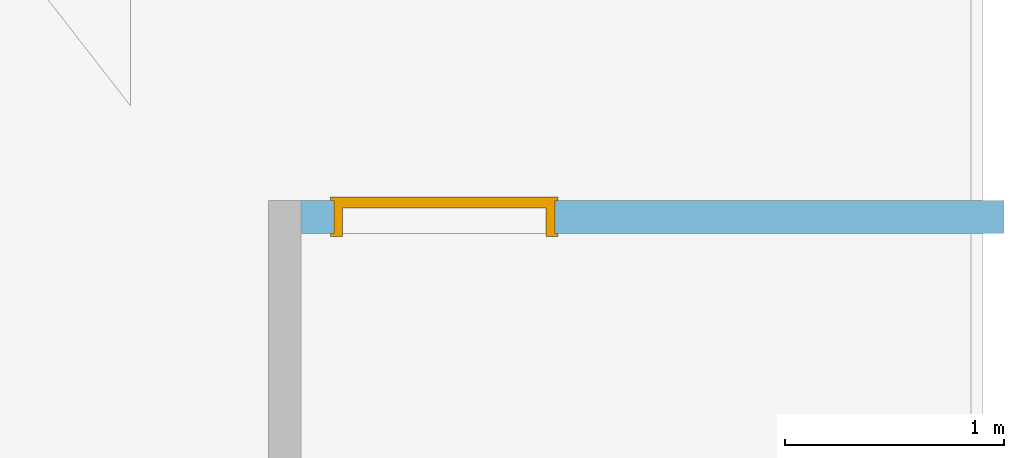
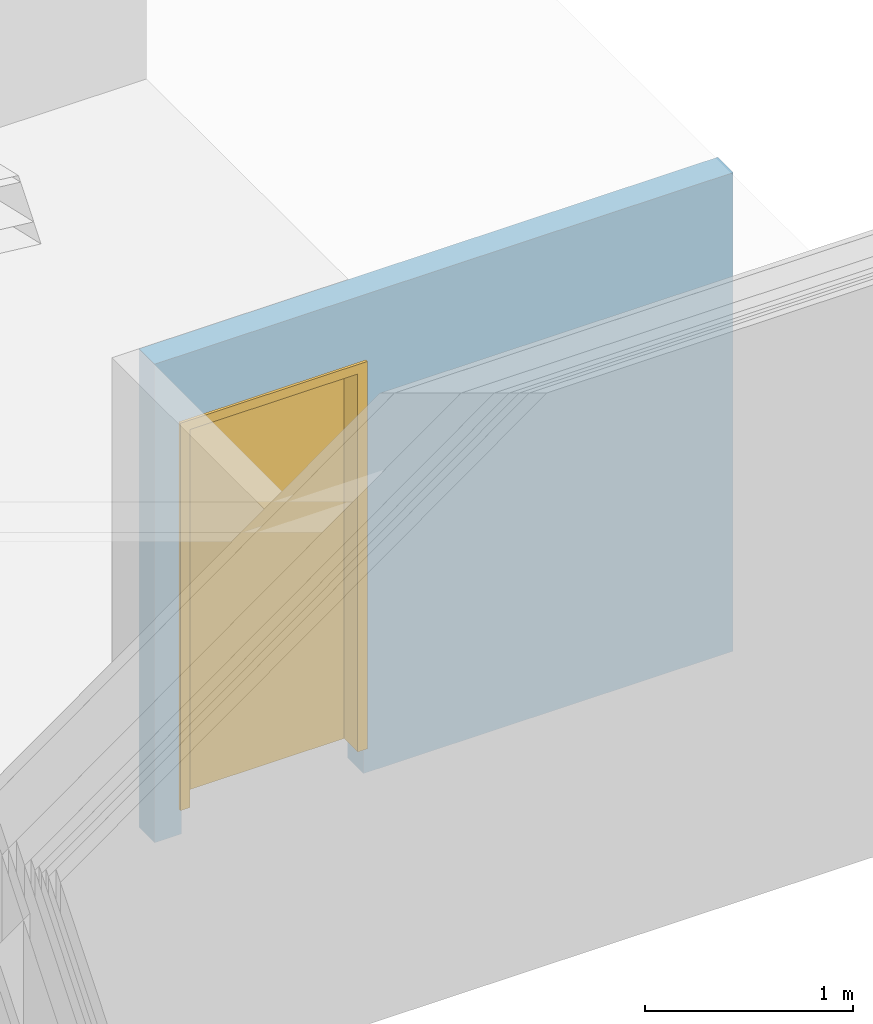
# One storey, part 10 of 14: 1 door, 1 opening, plus 1 element that does not belong to this part.
"""IFC4 building model written with IfcOpenShell, lengths in metres."""

import ifcopenshell
import ifcopenshell.guid

model = None  # the IFC model being written
_history = None  # IfcOwnerHistory: only IFC2X3 demands one
_inside = {}  # id of a spatial element -> (the spatial element, [elements in it])
_under = {}  # id of a project, library or spatial element -> (it, [spatial elements below it])
_declared = {}  # id of a project -> (the project, [libraries it declares])
_typed = {}  # id of a type object -> (the type object, [elements of that type])
_made_of = {}  # id of a material, layer set ... -> (it, [elements and type objects made of it])


def new_model(schema):
    """Start an empty IFC model of exactly this schema.

    Asked for "IFC4X3", IfcOpenShell would pick the latest addendum, in which some entities
    have other attributes; the version numbers below select the first issue.
    IFC2X3 requires an IfcOwnerHistory on every rooted entity: one is made here for all.
    """
    global model, _history
    if schema == "IFC4X3":
        model = ifcopenshell.file(schema_version=(4, 3, 0, 0))
    else:
        model = ifcopenshell.file(schema=schema)
    _inside.clear()
    _under.clear()
    _declared.clear()
    _typed.clear()
    _made_of.clear()
    _history = None
    if model.schema == "IFC2X3":
        org = make("IfcOrganization", Name="unknown")
        user = make(
            "IfcPersonAndOrganization",
            ThePerson=make("IfcPerson", FamilyName="unknown"),
            TheOrganization=org,
        )
        app = make(
            "IfcApplication",
            ApplicationDeveloper=org,
            Version="unknown",
            ApplicationFullName="unknown",
            ApplicationIdentifier="unknown",
        )
        _history = make(
            "IfcOwnerHistory",
            OwningUser=user,
            OwningApplication=app,
            ChangeAction="ADDED",
            CreationDate=0,
        )
    return model


def make(cls, **values):
    """One entity of the class cls with the attributes given. An attribute that is None is left unset."""
    return model.create_entity(
        cls, **{name: value for name, value in values.items() if value is not None}
    )


def entity(cls, *values):
    """Any entity or typed value of the class cls, its attributes in the order of the schema. None: left unset."""
    e = model.create_entity(cls)
    for i, value in enumerate(values):
        if value is not None:
            e[i] = value
    return e


def rooted(cls, **values):
    """An entity with a GlobalId (a new one), such as an element, a storey or a relation."""
    return make(cls, GlobalId=ifcopenshell.guid.new(), OwnerHistory=_history, **values)


def si_unit(unit_type, name, prefix=None):
    """IfcSIUnit, for example si_unit("LENGTHUNIT", "METRE", prefix="MILLI")."""
    return make("IfcSIUnit", UnitType=unit_type, Prefix=prefix, Name=name)


def converted_unit(unit_type, name, factor, base, dimensions=None, offset=None):
    """IfcConversionBasedUnit, such as the inch: factor (a typed value) times the base unit."""
    return make(
        "IfcConversionBasedUnit"
        if offset is None
        else "IfcConversionBasedUnitWithOffset",
        ConversionOffset=offset,
        Dimensions=None
        if dimensions is None
        else entity("IfcDimensionalExponents", *dimensions),
        UnitType=unit_type,
        Name=name,
        ConversionFactor=make(
            "IfcMeasureWithUnit", ValueComponent=factor, UnitComponent=base
        ),
    )


def derived_unit(unit_type, elements):
    """IfcDerivedUnit: a product of units, each with its exponent."""
    return make(
        "IfcDerivedUnit",
        Elements=[
            make("IfcDerivedUnitElement", Unit=unit, Exponent=power)
            for unit, power in elements
        ],
        UnitType=unit_type,
    )


def assignment(units):
    """IfcUnitAssignment: the units of a project."""
    return None if units is None else make("IfcUnitAssignment", Units=units)


def point(xyz):
    """IfcCartesianPoint."""
    return None if xyz is None else make("IfcCartesianPoint", Coordinates=xyz)


def direction(xyz):
    """IfcDirection."""
    return None if xyz is None else make("IfcDirection", DirectionRatios=xyz)


def frame(location, z_axis=None, x_axis=None):
    """IfcAxis2Placement3D, a coordinate frame: its origin and axes. An axis left out is left unset."""
    return make(
        "IfcAxis2Placement3D",
        Location=point(location),
        Axis=direction(z_axis),
        RefDirection=direction(x_axis),
    )


def frame_2d(location, x_axis=None):
    """IfcAxis2Placement2D, a coordinate frame in the plane: its origin and x axis."""
    return make(
        "IfcAxis2Placement2D", Location=point(location), RefDirection=direction(x_axis)
    )


def origin():
    """The frame at (0, 0, 0) with its axes left unset."""
    return frame((0.0, 0.0, 0.0))


def origin_with_axes():
    """The frame at (0, 0, 0) with the z axis (0, 0, 1) and the x axis (1, 0, 0) written out."""
    return frame((0.0, 0.0, 0.0), z_axis=(0.0, 0.0, 1.0), x_axis=(1.0, 0.0, 0.0))


def place(relative_to, where):
    """IfcLocalPlacement: puts the frame where relative to a parent placement (None: the world)."""
    return make(
        "IfcLocalPlacement", PlacementRelTo=relative_to, RelativePlacement=where
    )


def context(
    kind, dimensions, precision=None, world=None, true_north=None, identifier=None
):
    """IfcGeometricRepresentationContext, for example the 3D "Model" context."""
    return make(
        "IfcGeometricRepresentationContext",
        ContextIdentifier=identifier,
        ContextType=kind,
        CoordinateSpaceDimension=dimensions,
        Precision=precision,
        WorldCoordinateSystem=world,
        TrueNorth=true_north,
    )


def subcontext(parent, identifier, kind, view, scale=None):
    """IfcGeometricRepresentationSubContext, for example "Body" below "Model"."""
    return make(
        "IfcGeometricRepresentationSubContext",
        ContextIdentifier=identifier,
        ContextType=kind,
        ParentContext=parent,
        TargetScale=scale,
        TargetView=view,
    )


def project(units=None, contexts=None):
    """IfcProject with its units and contexts."""
    return rooted(
        "IfcProject",
        Name="project",
        RepresentationContexts=contexts,
        UnitsInContext=assignment(units),
    )


def spatial(cls, under=None, at=None, **own):
    """A site, building, storey or space (cls), placed at a placement, below another one or the project."""
    s = rooted(cls, ObjectPlacement=at, **own)
    if under is not None:
        _under.setdefault(under.id(), (under, []))[1].append(s)
    return s


def polyline(points):
    """IfcPolyline through the points."""
    return make("IfcPolyline", Points=[point(p) for p in points])


def profile(cls, at=None, kind="AREA", **sizes):
    """A parametric profile (cls). Its sizes go by their IFC names, for example OverallWidth=200.0."""
    return make(cls, ProfileType=kind, Position=at, **sizes)


def rectangle(**sizes):
    """IfcRectangleProfileDef."""
    return profile("IfcRectangleProfileDef", **sizes)


def outline(outer, holes=None, kind="AREA"):
    """IfcArbitraryClosedProfileDef: a profile drawn as a closed curve; with holes, ...WithVoids."""
    if holes is None:
        return make("IfcArbitraryClosedProfileDef", ProfileType=kind, OuterCurve=outer)
    return make(
        "IfcArbitraryProfileDefWithVoids",
        ProfileType=kind,
        OuterCurve=outer,
        InnerCurves=holes,
    )


def extrude(swept, where, along, depth):
    """IfcExtrudedAreaSolid: the profile swept, set in the frame where, extruded along a direction by depth."""
    return make(
        "IfcExtrudedAreaSolid",
        SweptArea=swept,
        Position=where,
        ExtrudedDirection=direction(along),
        Depth=depth,
    )


def faces_of(points, faces, orient=None, outer=None):
    """IfcFace entities. A face is a list of loops; a loop is a list of indices into points, from 0.

    orient and outer hold one flag for each loop. By default every Orientation is true, the
    first loop of a face is its IfcFaceOuterBound and the others are IfcFaceBound.
    """
    made = []
    for i, loops in enumerate(faces):
        bounds = []
        for j, loop in enumerate(loops):
            is_outer = j == 0 if outer is None else outer[i][j]
            bounds.append(
                make(
                    "IfcFaceOuterBound" if is_outer else "IfcFaceBound",
                    Bound=make("IfcPolyLoop", Polygon=[points[k] for k in loop]),
                    Orientation=True if orient is None else orient[i][j],
                )
            )
        made.append(make("IfcFace", Bounds=bounds))
    return made


def faceted_brep(points, faces, orient=None, outer=None, voids=None):
    """IfcFacetedBrep: a solid bounded by flat faces; with voids (closed shells), ...WithVoids."""
    shared = [point(p) for p in points]
    hull = make("IfcClosedShell", CfsFaces=faces_of(shared, faces, orient, outer))
    if voids is None:
        return make("IfcFacetedBrep", Outer=hull)
    return make(
        "IfcFacetedBrepWithVoids",
        Outer=hull,
        Voids=[
            make(cls, CfsFaces=faces_of(shared, fs, o, b)) for cls, fs, o, b in voids
        ],
    )


def shape(context_of_items, identifier, shape_type, items):
    """IfcShapeRepresentation: the items that make up one representation, for example the "Body"."""
    return make(
        "IfcShapeRepresentation",
        ContextOfItems=context_of_items,
        RepresentationIdentifier=identifier,
        RepresentationType=shape_type,
        Items=items,
    )


def source(mapping_origin, context_of_items, identifier, shape_type, items):
    """IfcRepresentationMap: a shape defined once, which mapped items show again and again."""
    return make(
        "IfcRepresentationMap",
        MappingOrigin=mapping_origin,
        MappedRepresentation=shape(context_of_items, identifier, shape_type, items),
    )


def transform(
    local_origin,
    x_axis=None,
    y_axis=None,
    z_axis=None,
    scale=None,
    scale2=None,
    scale3=None,
    uniform=True,
):
    """IfcCartesianTransformationOperator3D, or its non-uniform kind. x_axis, y_axis, z_axis: its Axis1, 2, 3."""
    if uniform:
        return make(
            "IfcCartesianTransformationOperator3D",
            Axis1=direction(x_axis),
            Axis2=direction(y_axis),
            LocalOrigin=point(local_origin),
            Scale=scale,
            Axis3=direction(z_axis),
        )
    return make(
        "IfcCartesianTransformationOperator3DnonUniform",
        Axis1=direction(x_axis),
        Axis2=direction(y_axis),
        LocalOrigin=point(local_origin),
        Scale=scale,
        Axis3=direction(z_axis),
        Scale2=scale2,
        Scale3=scale3,
    )


def mapped(mapping_source, mapping_target):
    """IfcMappedItem: shows the shape of a source again, moved by a transform."""
    return make(
        "IfcMappedItem", MappingSource=mapping_source, MappingTarget=mapping_target
    )


def material(Name=None, Category=None):
    """IfcMaterial."""
    return make("IfcMaterial", Name=Name, Category=Category)


def made_of(thing, what):
    """Note that an element or type object is made of a material, layer set ...; save() writes the relation."""
    if what is not None:
        _made_of.setdefault(what.id(), (what, []))[1].append(thing)
    return thing


def type_object(cls, material=None, **own):
    """A type object (cls), such as IfcWallType, which elements share."""
    return made_of(rooted(cls, **own), material)


def element(
    cls,
    number,
    at=None,
    inside=None,
    cuts=None,
    type_object=None,
    material=None,
    context=None,
    identifier="Body",
    shape_type=None,
    held_by="IfcProductDefinitionShape",
    body=None,
    shapes=None,
    **own,
):
    """One element of the class cls, such as IfcWall. Its Tag is "e" and its number.

    at: its placement. inside: the storey or other place that contains it. cuts: it is an
    opening in that element (IfcRelVoidsElement). A single representation is given by context,
    identifier, shape_type and body (its items); several are given by shapes. held_by: the class
    of the entity that holds the representations. save() writes the other relations.
    """
    e = rooted(cls, Tag="e%d" % number, ObjectPlacement=at, **own)
    if body is not None:
        shapes = [shape(context, identifier, shape_type, body)]
    if shapes is not None:
        e.Representation = make(held_by, Representations=shapes)
    if inside is not None:
        _inside.setdefault(inside.id(), (inside, []))[1].append(e)
    if cuts is not None:
        rooted(
            "IfcRelVoidsElement", RelatingBuildingElement=cuts, RelatedOpeningElement=e
        )
    if type_object is not None:
        _typed.setdefault(type_object.id(), (type_object, []))[1].append(e)
    return made_of(e, material)


def fill(opening, filler):
    """IfcRelFillsElement: the door or window that sits in an opening."""
    return rooted(
        "IfcRelFillsElement",
        RelatingOpeningElement=opening,
        RelatedBuildingElement=filler,
    )


def aggregate(whole, parts):
    """IfcRelAggregates: a whole, such as a stair, and the parts it consists of."""
    return rooted("IfcRelAggregates", RelatingObject=whole, RelatedObjects=parts)


def save(model, path):
    """Write the relations noted so far, then the file.

    IfcRelAggregates (storeys below a building ...), IfcRelContainedInSpatialStructure (elements
    in a storey), IfcRelDefinesByType, IfcRelAssociatesMaterial and IfcRelDeclares: one each for
    every whole, place, type object, material and project.
    """
    for whole, parts in _under.values():
        aggregate(whole, parts)
    for where, things in _inside.values():
        rooted(
            "IfcRelContainedInSpatialStructure",
            RelatedElements=things,
            RelatingStructure=where,
        )
    for kind, things in _typed.values():
        rooted("IfcRelDefinesByType", RelatedObjects=things, RelatingType=kind)
    for what, things in _made_of.values():
        rooted("IfcRelAssociatesMaterial", RelatedObjects=things, RelatingMaterial=what)
    for by, libraries in _declared.values():
        rooted("IfcRelDeclares", RelatingContext=by, RelatedDefinitions=libraries)
    model.write(path)


model = new_model("IFC4")

# Units and contexts
model_context = context("Model", 3, precision=1e-05, world=origin())
body_context = subcontext(model_context, "Body", "Model", "MODEL_VIEW")
ifc_project = project(units=[si_unit("LENGTHUNIT", "METRE"), si_unit("AREAUNIT", "SQUARE_METRE"), si_unit("VOLUMEUNIT", "CUBIC_METRE"), si_unit("MASSUNIT", "GRAM", prefix="KILO"), converted_unit("PLANEANGLEUNIT", "DEGREE", entity("IfcPlaneAngleMeasure", 0.0174532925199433), si_unit("PLANEANGLEUNIT", "RADIAN"), dimensions=[0, 0, 0, 0, 0, 0, 0]), derived_unit("THERMALTRANSMITTANCEUNIT", [(si_unit("POWERUNIT", "WATT"), 1), (si_unit("THERMODYNAMICTEMPERATUREUNIT", "KELVIN"), -1), (si_unit("LENGTHUNIT", "METRE"), -2)]), derived_unit("VOLUMETRICFLOWRATEUNIT", [(si_unit("LENGTHUNIT", "METRE"), 3), (converted_unit("TIMEUNIT", "hour", entity("IfcTimeMeasure", 3600.0), si_unit("TIMEUNIT", "SECOND"), dimensions=[0, 0, 1, 0, 0, 0, 0]), -1), (si_unit("LENGTHUNIT", "METRE"), -1)])], contexts=[model_context])

# Site, building, storey
site_placement = place(None, origin())
site = spatial("IfcSite", under=ifc_project, at=site_placement, Name="Psychiatrie Neubau Wunstorf", CompositionType="ELEMENT")
building_placement = place(site_placement, origin())
building = spatial("IfcBuilding", under=site, at=building_placement, Name="Neubau H1 Sozialzentrum", CompositionType="ELEMENT")
storey_placement = place(building_placement, frame((0.0, 0.0, 4.45)))
storey = spatial("IfcBuildingStorey", under=building, at=storey_placement, Name="H1 Ebene +1", CompositionType="ELEMENT", Elevation=4.45)

# Wall, opening, door
ifc_material_1 = material(Name="WI-LB")
wall_placement = place(storey_placement, frame((0.0300000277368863, 13.5722461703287, -0.15), z_axis=(0.0, 0.0, 1.0), x_axis=(-0.999999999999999, 4.53196943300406e-08, 0.0)))
wall = element("IfcWall", 1, at=wall_placement, inside=storey, material=ifc_material_1, context=body_context, shape_type="SweptSolid", body=[
    extrude(rectangle(XDim=3.21450150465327, YDim=0.15, at=frame_2d((1.60725075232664, 0.075), x_axis=(1.0, 0.0))), origin_with_axes(), (0.0, 0.0, 1.0), 2.81),
])
opening_placement = place(wall_placement, frame((3.06450149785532, 0.15, 0.0), z_axis=(6.16209945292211e-10, -1.0, 0.0), x_axis=(0.0, 0.0, 1.0)))
opening = element("IfcOpeningElement", 2, at=opening_placement, cuts=wall, Name="Türöffnung", ObjectType="Opening", context=body_context, shape_type="SweptSolid", body=[
    extrude(outline(polyline([(2.41, 1.01), (2.41, 0.0), (0.0, 0.0), (0.0, 1.01), (2.41, 1.01)])), origin_with_axes(), (0.0, 0.0, 1.0), 0.15),
])
ifc_material_2 = material(Name="TI-1F-UZ-ZK")
door_type = type_object("IfcDoorType", Name="SMT", OperationType="SINGLE_SWING_RIGHT", ParameterTakesPrecedence=False, PredefinedType="DOOR")
shared_shape = source(origin_with_axes(), body_context, "Body", "Brep", [
    faceted_brep([(0.0, -0.0149999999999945, 2.41), (0.0399999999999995, -0.0149999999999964, 2.41), (0.0399999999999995, -0.0149999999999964, 0.15), (0.0, -0.0149999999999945, 0.15), (0.0, 0.165000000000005, 0.15), (0.0399999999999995, 0.165000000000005, 0.15), (0.0399999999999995, 0.165000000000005, 2.41), (0.0, 0.165000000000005, 2.41)], [[[0, 1, 2, 3]], [[4, 5, 6, 7]], [[3, 4, 7, 0]], [[2, 5, 4, 3]], [[1, 6, 5, 2]], [[0, 7, 6, 1]]], orient=[[False], [False], [False], [False], [False], [False]]),
    faceted_brep([(0.0, -0.0149999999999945, 2.425), (0.0, -0.0149999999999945, 0.15), (-0.0150000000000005, -0.0149999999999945, 0.15), (-0.0150000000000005, -0.0149999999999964, 2.425), (0.0, 0.0, 0.15), (0.0, 0.0, 2.425), (-0.0150000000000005, 0.0, 2.425), (-0.0150000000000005, 0.0, 0.15)], [[[0, 1, 2, 3]], [[4, 5, 6, 7]], [[1, 0, 5, 4]], [[2, 1, 4, 7]], [[3, 2, 7, 6]], [[0, 3, 6, 5]]], orient=[[False], [False], [False], [False], [False], [False]]),
    faceted_brep([(0.0, 0.150000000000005, 2.425), (0.0, 0.150000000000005, 0.15), (-0.0150000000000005, 0.150000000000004, 0.15), (-0.0150000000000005, 0.150000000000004, 2.425), (0.0, 0.165000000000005, 0.15), (0.0, 0.165000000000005, 2.425), (-0.0150000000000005, 0.165000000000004, 2.425), (-0.0150000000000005, 0.165000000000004, 0.15)], [[[0, 1, 2, 3]], [[4, 5, 6, 7]], [[1, 0, 5, 4]], [[2, 1, 4, 7]], [[3, 2, 7, 6]], [[0, 3, 6, 5]]], orient=[[False], [False], [False], [False], [False], [False]]),
    faceted_brep([(0.97, -0.0149999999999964, 2.41), (1.01, -0.0149999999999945, 2.41), (1.01, -0.0149999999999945, 0.15), (0.97, -0.0149999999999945, 0.15), (0.97, 0.165000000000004, 0.15), (1.01, 0.165000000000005, 0.15), (1.01, 0.165000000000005, 2.41), (0.97, 0.165000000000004, 2.41)], [[[0, 1, 2, 3]], [[4, 5, 6, 7]], [[3, 4, 7, 0]], [[2, 5, 4, 3]], [[1, 6, 5, 2]], [[0, 7, 6, 1]]], orient=[[False], [False], [False], [False], [False], [False]]),
    faceted_brep([(1.01, -0.0149999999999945, 2.425), (1.025, -0.0149999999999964, 2.425), (1.025, -0.0149999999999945, 0.15), (1.01, -0.0149999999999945, 0.15), (1.01, 0.0, 0.15), (1.025, 0.0, 0.15), (1.025, 0.0, 2.425), (1.01, 0.0, 2.425)], [[[0, 1, 2, 3]], [[4, 5, 6, 7]], [[3, 4, 7, 0]], [[2, 5, 4, 3]], [[1, 6, 5, 2]], [[0, 7, 6, 1]]], orient=[[False], [False], [False], [False], [False], [False]]),
    faceted_brep([(1.01, 0.150000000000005, 2.425), (1.025, 0.150000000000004, 2.425), (1.025, 0.150000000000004, 0.15), (1.01, 0.150000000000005, 0.15), (1.01, 0.165000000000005, 0.15), (1.025, 0.165000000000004, 0.15), (1.025, 0.165000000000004, 2.425), (1.01, 0.165000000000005, 2.425)], [[[0, 1, 2, 3]], [[4, 5, 6, 7]], [[3, 4, 7, 0]], [[2, 5, 4, 3]], [[1, 6, 5, 2]], [[0, 7, 6, 1]]], orient=[[False], [False], [False], [False], [False], [False]]),
    faceted_brep([(0.0399999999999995, -0.0149999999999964, 2.41), (0.97, -0.0149999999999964, 2.41), (0.97, -0.0149999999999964, 2.37), (0.0399999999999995, -0.0149999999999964, 2.37), (0.0399999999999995, 0.165000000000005, 2.37), (0.97, 0.165000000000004, 2.37), (0.97, 0.165000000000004, 2.41), (0.0399999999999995, 0.165000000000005, 2.41)], [[[0, 1, 2, 3]], [[4, 5, 6, 7]], [[3, 4, 7, 0]], [[2, 5, 4, 3]], [[1, 6, 5, 2]], [[0, 7, 6, 1]]], orient=[[False], [False], [False], [False], [False], [False]]),
    faceted_brep([(0.0, -0.0149999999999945, 2.425), (1.01, -0.0149999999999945, 2.425), (1.01, -0.0149999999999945, 2.41), (0.0, -0.0149999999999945, 2.41), (0.0, 0.0, 2.41), (1.01, 0.0, 2.41), (1.01, 0.0, 2.425), (0.0, 0.0, 2.425)], [[[0, 1, 2, 3]], [[4, 5, 6, 7]], [[3, 4, 7, 0]], [[2, 5, 4, 3]], [[1, 6, 5, 2]], [[0, 7, 6, 1]]], orient=[[False], [False], [False], [False], [False], [False]]),
    faceted_brep([(0.0, 0.150000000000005, 2.425), (1.01, 0.150000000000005, 2.425), (1.01, 0.150000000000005, 2.41), (0.0, 0.150000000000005, 2.41), (0.0, 0.165000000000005, 2.41), (1.01, 0.165000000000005, 2.41), (1.01, 0.165000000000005, 2.425), (0.0, 0.165000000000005, 2.425)], [[[0, 1, 2, 3]], [[4, 5, 6, 7]], [[3, 4, 7, 0]], [[2, 5, 4, 3]], [[1, 6, 5, 2]], [[0, 7, 6, 1]]], orient=[[False], [False], [False], [False], [False], [False]]),
    faceted_brep([(0.0249999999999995, 0.116000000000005, 2.385), (0.985, 0.116000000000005, 2.385), (0.985, 0.116000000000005, 0.15), (0.0249999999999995, 0.116000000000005, 0.15), (0.0249999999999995, 0.166000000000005, 0.15), (0.985, 0.166000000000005, 0.15), (0.985, 0.166000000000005, 2.385), (0.0249999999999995, 0.166000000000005, 2.385)], [[[0, 1, 2, 3]], [[4, 5, 6, 7]], [[3, 4, 7, 0]], [[2, 5, 4, 3]], [[1, 6, 5, 2]], [[0, 7, 6, 1]]], orient=[[False], [False], [False], [False], [False], [False]]),
])
door_placement = place(opening_placement, frame((0.0, 0.0, 0.0), z_axis=(1.0, 0.0, 0.0), x_axis=(0.0, 1.0, -6.16209772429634e-10)))
door = element("IfcDoor", 3, at=door_placement, inside=storey, type_object=door_type, material=ifc_material_2, Name="SMT", OverallHeight=2.41, OverallWidth=1.01, context=body_context, shape_type="MappedRepresentation", body=[
    mapped(shared_shape, transform((0.0, 0.0, 0.0), x_axis=(1.0, 0.0, 0.0), y_axis=(0.0, 1.0, 0.0), z_axis=(0.0, 0.0, 1.0), scale=1.0)),
])
fill(opening, door)

save(model, "model.ifc")
